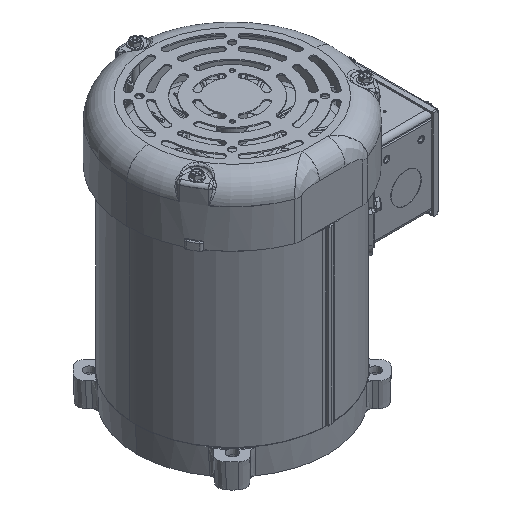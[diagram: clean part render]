
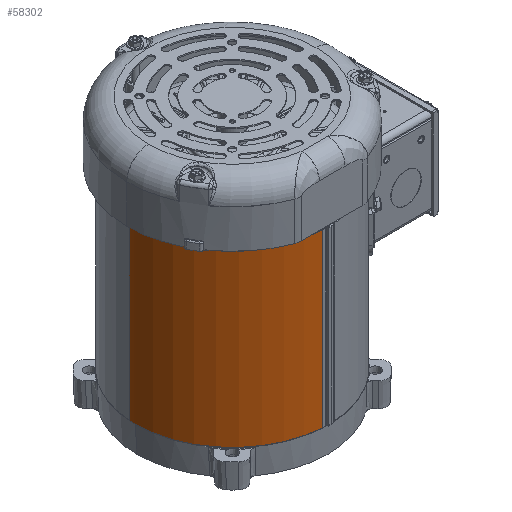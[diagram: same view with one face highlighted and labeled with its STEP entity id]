
A CAD part, isometric view. The second image highlights one B-rep face of the part: STEP entity #58302.
In plain terms, the highlighted cylindrical face has radius 71.369 mm (diameter 142.738 mm), a partial arc.
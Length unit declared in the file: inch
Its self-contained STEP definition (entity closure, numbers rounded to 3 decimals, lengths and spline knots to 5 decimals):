
#3096 = CARTESIAN_POINT ( 'NONE',  ( -0.18377, -2.80378, 7.8886 ) ) ;
#5448 = VERTEX_POINT ( 'NONE', #97485 ) ;
#5530 = VECTOR ( 'NONE', #140589, 39.37008 ) ;
#6526 = DIRECTION ( 'NONE',  ( 1., 0., 0. ) ) ;
#8338 = VERTEX_POINT ( 'NONE', #29997 ) ;
#8858 = VERTEX_POINT ( 'NONE', #54322 ) ;
#9936 = DIRECTION ( 'NONE',  ( 0., 0., -1. ) ) ;
#14060 = CYLINDRICAL_SURFACE ( 'NONE', #113508, 2.8098 ) ;
#24707 = ORIENTED_EDGE ( 'NONE', *, *, #109847, .T. ) ;
#26361 = DIRECTION ( 'NONE',  ( 0., 0., 1. ) ) ;
#29997 = CARTESIAN_POINT ( 'NONE',  ( -0.18377, -2.80378, 7.7936 ) ) ;
#32910 = CARTESIAN_POINT ( 'NONE',  ( 0., 0., 2.8136 ) ) ;
#34162 = DIRECTION ( 'NONE',  ( 1., 0., 0. ) ) ;
#34545 = CIRCLE ( 'NONE', #109818, 2.8098 ) ;
#38010 = CARTESIAN_POINT ( 'NONE',  ( -2.8098, 0., 7.7936 ) ) ;
#43512 = DIRECTION ( 'NONE',  ( -1., 0., 0. ) ) ;
#43568 = EDGE_CURVE ( 'NONE', #64955, #5448, #91431, .T. ) ;
#48617 = DIRECTION ( 'NONE',  ( -1., 0., 0. ) ) ;
#53510 = EDGE_CURVE ( 'NONE', #5448, #8858, #105621, .T. ) ;
#54322 = CARTESIAN_POINT ( 'NONE',  ( -2.80378, 0.18377, 2.8136 ) ) ;
#58302 = ADVANCED_FACE ( 'NONE', ( #117883 ), #14060, .T. ) ;
#58588 = AXIS2_PLACEMENT_3D ( 'NONE', #101498, #138976, #6526 ) ;
#63229 = ORIENTED_EDGE ( 'NONE', *, *, #101004, .T. ) ;
#64626 = CARTESIAN_POINT ( 'NONE',  ( -0.18377, -2.80378, 2.8136 ) ) ;
#64955 = VERTEX_POINT ( 'NONE', #38010 ) ;
#67404 = CIRCLE ( 'NONE', #102634, 2.8098 ) ;
#75288 = AXIS2_PLACEMENT_3D ( 'NONE', #144418, #9936, #34162 ) ;
#75675 = VECTOR ( 'NONE', #136608, 39.37008 ) ;
#83640 = EDGE_LOOP ( 'NONE', ( #24707, #133255, #130282, #63229, #147942, #138653 ) ) ;
#85594 = VERTEX_POINT ( 'NONE', #64626 ) ;
#91431 = CIRCLE ( 'NONE', #75288, 2.8098 ) ;
#97485 = CARTESIAN_POINT ( 'NONE',  ( -2.80378, 0.18377, 7.7936 ) ) ;
#101004 = EDGE_CURVE ( 'NONE', #8858, #135722, #34545, .T. ) ;
#101498 = CARTESIAN_POINT ( 'NONE',  ( 0., 0., 7.7936 ) ) ;
#102634 = AXIS2_PLACEMENT_3D ( 'NONE', #120882, #26361, #48617 ) ;
#104679 = CARTESIAN_POINT ( 'NONE',  ( -2.80378, 0.18377, 22.97252 ) ) ;
#105621 = LINE ( 'NONE', #104679, #5530 ) ;
#106485 = DIRECTION ( 'NONE',  ( 0., 0., -1. ) ) ;
#107739 = LINE ( 'NONE', #3096, #75675 ) ;
#109818 = AXIS2_PLACEMENT_3D ( 'NONE', #32910, #115811, #43512 ) ;
#109847 = EDGE_CURVE ( 'NONE', #8338, #64955, #122699, .T. ) ;
#113508 = AXIS2_PLACEMENT_3D ( 'NONE', #145000, #106485, #130759 ) ;
#115811 = DIRECTION ( 'NONE',  ( 0., 0., 1. ) ) ;
#117883 = FACE_OUTER_BOUND ( 'NONE', #83640, .T. ) ;
#120882 = CARTESIAN_POINT ( 'NONE',  ( 0., 0., 2.8136 ) ) ;
#122699 = CIRCLE ( 'NONE', #58588, 2.8098 ) ;
#126273 = EDGE_CURVE ( 'NONE', #8338, #85594, #107739, .T. ) ;
#130282 = ORIENTED_EDGE ( 'NONE', *, *, #53510, .T. ) ;
#130759 = DIRECTION ( 'NONE',  ( -0.998, 0.065, 0. ) ) ;
#133255 = ORIENTED_EDGE ( 'NONE', *, *, #43568, .T. ) ;
#135722 = VERTEX_POINT ( 'NONE', #139066 ) ;
#136608 = DIRECTION ( 'NONE',  ( 0., 0., -1. ) ) ;
#138653 = ORIENTED_EDGE ( 'NONE', *, *, #126273, .F. ) ;
#138976 = DIRECTION ( 'NONE',  ( 0., 0., -1. ) ) ;
#139066 = CARTESIAN_POINT ( 'NONE',  ( -2.8098, 0., 2.8136 ) ) ;
#140589 = DIRECTION ( 'NONE',  ( 0., 0., -1. ) ) ;
#144418 = CARTESIAN_POINT ( 'NONE',  ( 0., 0., 7.7936 ) ) ;
#145000 = CARTESIAN_POINT ( 'NONE',  ( 0., 0., 22.97252 ) ) ;
#147942 = ORIENTED_EDGE ( 'NONE', *, *, #150763, .T. ) ;
#150763 = EDGE_CURVE ( 'NONE', #135722, #85594, #67404, .T. ) ;
